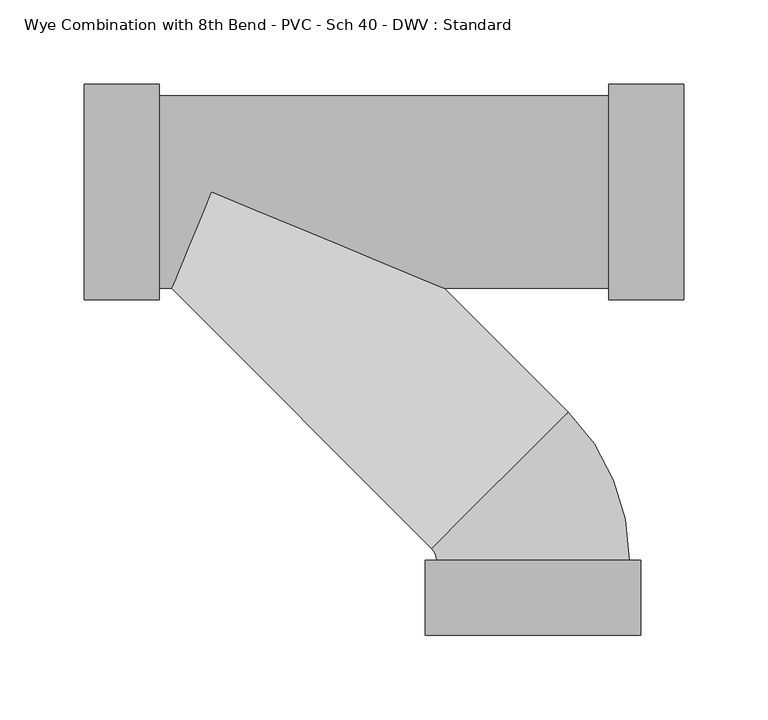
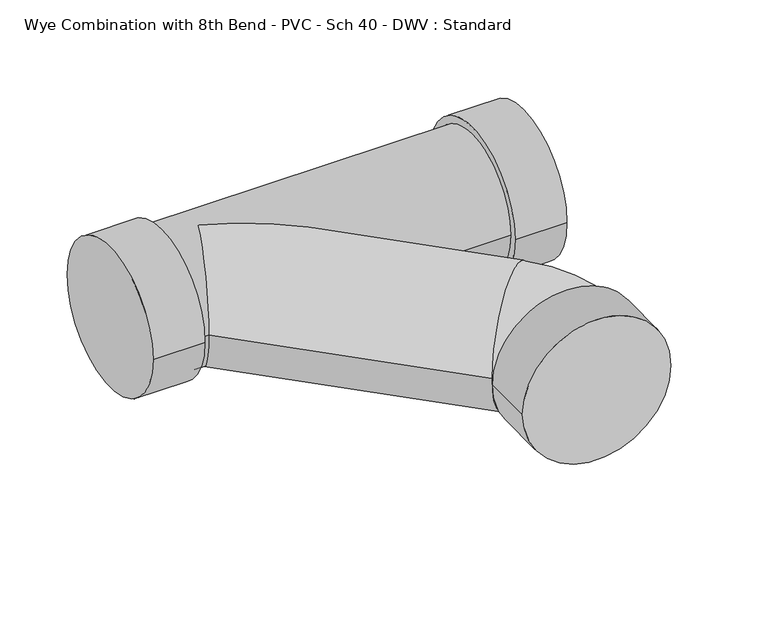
"""IFC4 building model written with IfcOpenShell, lengths in millimetres: pipe fitting geometry, Wye Combination with 8th Bend - PVC - Sch 40 - DWV : Standard."""

from ifc_helpers import new_model, si_unit, point, frame, origin, place, context, project, spatial, circle_curve, ellipse_curve, trimmed, source, transform, mapped, element, save
from ifc_brep_helpers import plane_surface, cylinder_surface, revolved_surface, advanced_brep


def wye_combination_with_8th_bend_pvc_sch_40_dwv_standard_0321597a(model_context):
    return source(origin(), model_context, "Body", "AdvancedBrep", [
        advanced_brep(
        [(-265.9120455, -63.754, 0.0), (-265.9120455, 63.754, 0.0), (-221.4620455, -63.754, 0.0), (-221.4620455, 63.754, 0.0), (-221.4620455, -57.15, 0.0), (-221.4620455, 57.15, 0.0), (44.8315545, 57.15, 0.0), (-214.2366211, -57.15, 0.0), (-190.564316, 0.0, 57.15), (-52.5920109, -57.15, 0.0), (44.8315545, -57.15, 0.0), (-190.564316, 0.0, -57.15), (44.8315545, -63.754, 0.0), (44.8315545, 63.754, 0.0), (89.2815545, -63.754, 0.0), (89.2815545, 63.754, 0.0), (-60.0136483, -211.3729728, 0.0), (-57.1494455, -218.2877452, 0.0), (57.1505545, -218.2874548, 0.0), (20.8086568, -130.5506677, 0.0), (-63.7534455, -218.2877619, 0.0), (63.7545545, -218.2874381, 0.0), (-63.7533326, -262.7377619, 0.0), (63.7546674, -262.7374381, 0.0)],
        [
            (0, 1, circle_curve(frame((-265.9120455, 0.0, 0.0), z_axis=(-1.0, 0.0, 0.0), x_axis=(0.0, 1.0, 0.0)), 63.754)),
            (1, 0, circle_curve(frame((-265.9120455, 0.0, 0.0), z_axis=(-1.0, 0.0, 0.0), x_axis=(0.0, 1.0, 0.0)), 63.754)),
            (2, 3, circle_curve(frame((-221.4620455, 0.0, 0.0), z_axis=(1.0, 0.0, 0.0), x_axis=(0.0, 1.0, 0.0)), 63.754)),
            (3, 2, circle_curve(frame((-221.4620455, 0.0, 0.0), z_axis=(1.0, 0.0, 0.0), x_axis=(0.0, 1.0, 0.0)), 63.754)),
            (4, 5, circle_curve(frame((-221.4620455, 0.0, 0.0), z_axis=(-1.0, 0.0, 0.0), x_axis=(0.0, 1.0, 0.0)), 57.15)),
            (5, 4, circle_curve(frame((-221.4620455, 0.0, 0.0), z_axis=(-1.0, 0.0, 0.0), x_axis=(0.0, 1.0, 0.0)), 57.15)),
            (0, 2),
            (3, 1),
            (6, 5),
            (4, 7),
            (7, 8, ellipse_curve(frame((-190.564316, 0.0, 0.0), z_axis=(-0.9238795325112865, 0.3826834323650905, 0.0), x_axis=(-0.38268343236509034, -0.9238795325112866, 0.0)), 61.8587142, 57.15)),
            (8, 9, ellipse_curve(frame((-190.564316, 0.0, 0.0), z_axis=(0.3826834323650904, 0.9238795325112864, 0.0), x_axis=(-0.9238795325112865, 0.38268343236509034, 0.0)), 149.3401469, 57.15)),
            (9, 10),
            (10, 6, circle_curve(frame((44.8315545, 0.0, 0.0), z_axis=(-1.0, 0.0, 0.0), x_axis=(0.0, 1.0, 0.0)), 57.15)),
            (6, 10, circle_curve(frame((44.8315545, 0.0, 0.0), z_axis=(-1.0, 0.0, 0.0), x_axis=(0.0, 1.0, 0.0)), 57.15)),
            (9, 11, ellipse_curve(frame((-190.564316, 0.0, 0.0), z_axis=(0.3826834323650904, 0.9238795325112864, 0.0), x_axis=(-0.9238795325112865, 0.38268343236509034, 0.0)), 149.3401469, 57.15)),
            (11, 7, ellipse_curve(frame((-190.564316, 0.0, 0.0), z_axis=(-0.9238795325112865, 0.3826834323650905, 0.0), x_axis=(-0.38268343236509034, -0.9238795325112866, 0.0)), 61.8587142, 57.15)),
            (12, 13, circle_curve(frame((44.8315545, 0.0, 0.0), z_axis=(-1.0, 0.0, 0.0), x_axis=(0.0, 1.0, 0.0)), 63.754)),
            (13, 12, circle_curve(frame((44.8315545, 0.0, 0.0), z_axis=(-1.0, 0.0, 0.0), x_axis=(0.0, 1.0, 0.0)), 63.754)),
            (14, 15, circle_curve(frame((89.2815545, 0.0, 0.0), z_axis=(1.0, 0.0, 0.0), x_axis=(0.0, 1.0, 0.0)), 63.754)),
            (15, 14, circle_curve(frame((89.2815545, 0.0, 0.0), z_axis=(1.0, 0.0, 0.0), x_axis=(0.0, 1.0, 0.0)), 63.754)),
            (12, 14),
            (15, 13),
            (16, 17, circle_curve(frame((-66.9284455, -218.28777, 0.0), z_axis=(0.0, 0.0, -1.0), x_axis=(0.9999999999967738, 2.540159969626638e-06, 0.0)), 9.779)),
            (17, 18, circle_curve(frame((0.0005545, -218.2876, 0.0), z_axis=(-2.5401599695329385e-06, 0.9999999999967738, 0.0), x_axis=(-0.9999999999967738, -2.5401599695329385e-06, 0.0)), 57.15)),
            (18, 19, circle_curve(frame((-66.9284455, -218.28777, 0.0), z_axis=(0.0, 0.0, 1.0), x_axis=(0.9999999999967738, 2.540159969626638e-06, 0.0)), 124.079)),
            (19, 16, circle_curve(frame((-19.6024958, -170.9618203, 0.0), z_axis=(0.7071067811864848, -0.7071067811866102, 0.0), x_axis=(-0.7071067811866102, -0.7071067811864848, 0.0)), 57.15)),
            (16, 19, circle_curve(frame((-19.6024958, -170.9618203, 0.0), z_axis=(0.7071067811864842, -0.7071067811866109, 0.0), x_axis=(-0.7071067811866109, -0.7071067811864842, 0.0)), 57.15)),
            (18, 17, circle_curve(frame((0.0005545, -218.2876, 0.0), z_axis=(-2.5401599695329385e-06, 0.9999999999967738, 0.0), x_axis=(-0.9999999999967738, -2.5401599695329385e-06, 0.0)), 57.15)),
            (19, 9),
            (7, 16),
            (20, 21, circle_curve(frame((0.0005545, -218.2876, 0.0), z_axis=(-2.5401600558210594e-06, 0.9999999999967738, 0.0), x_axis=(0.9999999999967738, 2.5401600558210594e-06, 0.0)), 63.754)),
            (21, 20, circle_curve(frame((0.0005545, -218.2876, 0.0), z_axis=(-2.5401600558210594e-06, 0.9999999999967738, 0.0), x_axis=(0.9999999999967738, 2.5401600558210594e-06, 0.0)), 63.754)),
            (22, 23, circle_curve(frame((0.0006674, -262.7376, 0.0), z_axis=(2.5401600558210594e-06, -0.9999999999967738, 0.0), x_axis=(0.9999999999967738, 2.5401600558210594e-06, 0.0)), 63.754)),
            (23, 22, circle_curve(frame((0.0006674, -262.7376, 0.0), z_axis=(2.5401600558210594e-06, -0.9999999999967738, 0.0), x_axis=(0.9999999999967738, 2.5401600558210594e-06, 0.0)), 63.754)),
            (20, 22),
            (23, 21),
        ],
        [
            plane_surface(frame((-265.9120455, 0.0, 0.0), z_axis=(-1.0, 0.0, 0.0), x_axis=(0.0, 0.0, 1.0))),
            plane_surface(frame((-221.4620455, 0.0, 0.0), z_axis=(1.0, 0.0, 0.0), x_axis=(0.0, 0.0, 1.0))),
            cylinder_surface(frame((-265.9120455, 0.0, 0.0), z_axis=(-1.0, 0.0, 0.0), x_axis=(0.0, 1.0, 0.0)), 63.754),
            cylinder_surface(frame((-221.4620455, 0.0, 0.0), z_axis=(-1.0, 0.0, 0.0), x_axis=(0.0, 1.0, 0.0)), 57.15),
            plane_surface(frame((44.8315545, 0.0, 0.0), z_axis=(-1.0, 0.0, 0.0), x_axis=(0.0, 0.0, 1.0))),
            plane_surface(frame((89.2815545, 0.0, 0.0), z_axis=(1.0, 0.0, 0.0), x_axis=(0.0, 0.0, 1.0))),
            cylinder_surface(frame((44.8315545, 0.0, 0.0), z_axis=(-1.0, 0.0, 0.0), x_axis=(0.0, 1.0, 0.0)), 63.754),
            revolved_surface(trimmed(ellipse_curve(frame((0.0005545, -218.2876, 0.0), z_axis=(2.5401599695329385e-06, -0.9999999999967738, 0.0), x_axis=(-0.9999999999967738, -2.5401599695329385e-06, 0.0)), 57.15, 57.15), [point((57.1505545, -218.2874548, 0.0))], [point((-57.1494455, -218.2877452, 0.0))], True, "CARTESIAN"), (-66.9284455, -218.28777, 0.0), (0.0, 0.0, 1.0)),
            revolved_surface(trimmed(ellipse_curve(frame((0.0005545, -218.2876, 0.0), z_axis=(2.5401599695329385e-06, -0.9999999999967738, 0.0), x_axis=(-0.9999999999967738, -2.5401599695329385e-06, 0.0)), 57.15, 57.15), [point((-57.1494455, -218.2877452, 0.0))], [point((57.1505545, -218.2874548, 0.0))], True, "CARTESIAN"), (-66.9284455, -218.28777, 0.0), (0.0, 0.0, 1.0)),
            cylinder_surface(frame((-19.6024958, -170.9618203, 0.0), z_axis=(0.7071067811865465, -0.7071067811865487, 0.0), x_axis=(-0.7071067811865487, -0.7071067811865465, 0.0)), 57.15),
            plane_surface(frame((0.0005545, -218.2876, 0.0), z_axis=(-2.5401600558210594e-06, 0.9999999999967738, 0.0), x_axis=(0.0, 0.0, 1.0))),
            plane_surface(frame((0.0006674, -262.7376, 0.0), z_axis=(2.5401600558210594e-06, -0.9999999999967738, 0.0), x_axis=(0.0, 0.0, 1.0))),
            cylinder_surface(frame((0.0005545, -218.2876, 0.0), z_axis=(-2.5401600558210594e-06, 0.9999999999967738, 0.0), x_axis=(0.9999999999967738, 2.5401600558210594e-06, 0.0)), 63.754),
        ],
        [
            (0, [[1, 2]]),
            (1, [[3, 4], [5, 6]]),
            (2, [[-1, 7, -4, 8]]),
            (2, [[-2, -8, -3, -7]]),
            (3, [[9, -5, 10, 11, 12, 13, 14]]),
            (3, [[-9, 15, -13, 16, 17, -10, -6]]),
            (4, [[18, 19], [-14, -15]]),
            (5, [[20, 21]]),
            (6, [[-18, 22, -21, 23]]),
            (6, [[-19, -23, -20, -22]]),
            (7, [[24, 25, 26, 27]]),
            (8, [[-24, 28, -26, 29]]),
            (9, [[-27, 30, -12, -11, 31]]),
            (9, [[-28, -31, -17, -16, -30]]),
            (10, [[32, 33], [-25, -29]]),
            (11, [[34, 35]]),
            (12, [[-32, 36, -35, 37]]),
            (12, [[-33, -37, -34, -36]]),
        ],
    ),
    ])


if __name__ == "__main__":
    model = new_model("IFC4")
    model_context = context("Model", 3, world=origin())
    ifc_project = project(units=[si_unit("LENGTHUNIT", "METRE", prefix="MILLI")], contexts=[model_context])
    site = spatial("IfcSite", under=ifc_project)
    building = spatial("IfcBuilding", under=site)
    placement = place(None, origin())
    wye_combination_with_8th_bend_pvc_sch_40_dwv_standard_shape = wye_combination_with_8th_bend_pvc_sch_40_dwv_standard_0321597a(model_context)
    element("IfcPipeFitting", 1, ObjectType="Wye Combination with 8th Bend - PVC - Sch 40 - DWV : Standard", at=placement, inside=building, context=model_context, shape_type="MappedRepresentation", body=[
        mapped(wye_combination_with_8th_bend_pvc_sch_40_dwv_standard_shape, transform((0.0, 0.0, 0.0), x_axis=(1.0, 0.0, 0.0), y_axis=(0.0, 1.0, 0.0), z_axis=(0.0, 0.0, 1.0))),
    ])
    save(model, "model.ifc")
